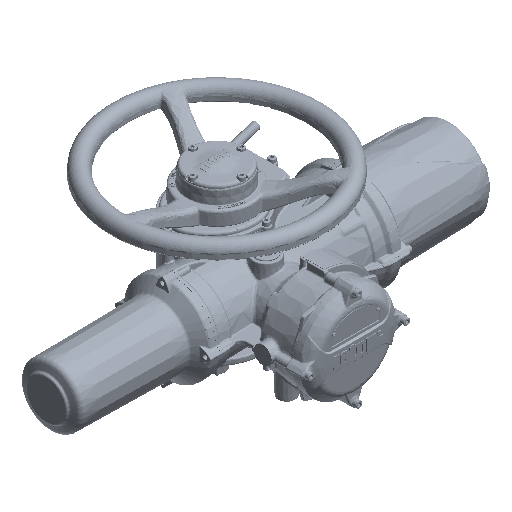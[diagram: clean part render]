
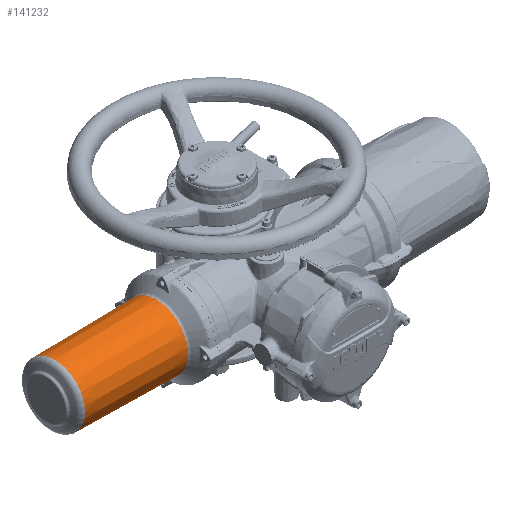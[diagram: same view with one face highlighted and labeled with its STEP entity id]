
A CAD part, isometric view. The second image highlights one B-rep face of the part: STEP entity #141232.
In plain terms, the highlighted conical face has half-angle 0.75 degrees and reference radius 65.5 mm.
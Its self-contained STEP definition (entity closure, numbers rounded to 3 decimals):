
#5220=CONICAL_SURFACE('',#149887,65.5,0.013);
#18158=B_SPLINE_CURVE_WITH_KNOTS('',3,(#257642,#257643,#257644,#257645,
#257646,#257647,#257648,#257649,#257650,#257651,#257652,#257653,#257654,
#257655,#257656,#257657,#257658,#257659,#257660,#257661,#257662,#257663,
#257664,#257665,#257666,#257667,#257668,#257669,#257670,#257671),
 .UNSPECIFIED.,.T.,.F.,(1,1,1,1,1,1,1,1,1,1,1,1,1,1,1,1,1,1,1,1,1,1,1,1,
1,1,1,1,1,1,1,1,1,1),(-0.016,-0.013,-0.006,
0.,0.003,0.006,0.01,0.013,
0.016,0.019,0.022,0.026,
0.029,0.032,0.035,0.038,
0.042,0.045,0.051,0.058,
0.064,0.067,0.07,0.074,
0.077,0.08,0.083,0.086,
0.09,0.096,0.102,0.106,
0.109,0.112),.UNSPECIFIED.);
#44130=ORIENTED_EDGE('',*,*,#61662,.T.);
#44131=ORIENTED_EDGE('',*,*,#61665,.T.);
#44132=ORIENTED_EDGE('',*,*,#61666,.F.);
#61662=EDGE_CURVE('',#71766,#71766,#77418,.F.);
#61665=EDGE_CURVE('',#71767,#71767,#18158,.T.);
#61666=EDGE_CURVE('',#71768,#71768,#77421,.T.);
#71766=VERTEX_POINT('',#257512);
#71767=VERTEX_POINT('',#257672);
#71768=VERTEX_POINT('',#257674);
#77418=CIRCLE('',#149884,65.464);
#77421=CIRCLE('',#149888,62.731);
#83673=EDGE_LOOP('',(#44130));
#83674=EDGE_LOOP('',(#44131));
#83675=EDGE_LOOP('',(#44132));
#90494=FACE_BOUND('',#83673,.T.);
#90495=FACE_BOUND('',#83674,.T.);
#90496=FACE_BOUND('',#83675,.T.);
#141232=ADVANCED_FACE('',(#90494,#90495,#90496),#5220,.T.);
#149884=AXIS2_PLACEMENT_3D('',#257511,#169366,#169367);
#149887=AXIS2_PLACEMENT_3D('',#257641,#169372,#169373);
#149888=AXIS2_PLACEMENT_3D('',#257673,#169374,#169375);
#169366=DIRECTION('',(1.,0.,0.));
#169367=DIRECTION('',(0.,0.,-1.));
#169372=DIRECTION('',(1.,0.,0.));
#169373=DIRECTION('',(0.,0.,-1.));
#169374=DIRECTION('',(-1.,0.,0.));
#169375=DIRECTION('',(0.,0.,1.));
#257511=CARTESIAN_POINT('',(-184.607,-60.,0.));
#257512=CARTESIAN_POINT('',(-184.607,-60.,-65.464));
#257641=CARTESIAN_POINT('',(-181.857,-60.,0.));
#257642=CARTESIAN_POINT('',(-261.185,-51.356,-63.957));
#257643=CARTESIAN_POINT('',(-265.153,-47.6,-63.222));
#257644=CARTESIAN_POINT('',(-268.938,-45.634,-62.74));
#257645=CARTESIAN_POINT('',(-272.024,-44.68,-62.47));
#257646=CARTESIAN_POINT('',(-275.207,-44.28,-62.326));
#257647=CARTESIAN_POINT('',(-278.455,-44.439,-62.323));
#257648=CARTESIAN_POINT('',(-281.574,-45.145,-62.455));
#257649=CARTESIAN_POINT('',(-284.565,-46.412,-62.706));
#257650=CARTESIAN_POINT('',(-287.218,-48.163,-63.03));
#257651=CARTESIAN_POINT('',(-289.536,-50.431,-63.388));
#257652=CARTESIAN_POINT('',(-291.318,-53.067,-63.712));
#257653=CARTESIAN_POINT('',(-292.536,-56.078,-63.957));
#257654=CARTESIAN_POINT('',(-293.057,-59.268,-64.067));
#257655=CARTESIAN_POINT('',(-292.86,-62.496,-64.025));
#257656=CARTESIAN_POINT('',(-291.946,-65.617,-63.836));
#257657=CARTESIAN_POINT('',(-289.876,-69.388,-63.44));
#257658=CARTESIAN_POINT('',(-285.928,-73.141,-62.81));
#257659=CARTESIAN_POINT('',(-279.883,-75.598,-62.296));
#257660=CARTESIAN_POINT('',(-274.446,-75.802,-62.317));
#257661=CARTESIAN_POINT('',(-270.242,-74.842,-62.61));
#257662=CARTESIAN_POINT('',(-267.3,-73.596,-62.936));
#257663=CARTESIAN_POINT('',(-264.607,-71.813,-63.335));
#257664=CARTESIAN_POINT('',(-262.339,-69.592,-63.745));
#257665=CARTESIAN_POINT('',(-260.523,-66.905,-64.121));
#257666=CARTESIAN_POINT('',(-259.331,-63.943,-64.39));
#257667=CARTESIAN_POINT('',(-258.799,-60.726,-64.516));
#257668=CARTESIAN_POINT('',(-259.068,-56.411,-64.452));
#257669=CARTESIAN_POINT('',(-261.185,-51.356,-63.957));
#257670=CARTESIAN_POINT('',(-265.153,-47.6,-63.222));
#257671=CARTESIAN_POINT('',(-268.938,-45.634,-62.74));
#257672=CARTESIAN_POINT('',(-266.15,-47.195,-63.111));
#257673=CARTESIAN_POINT('',(-393.347,-60.,0.));
#257674=CARTESIAN_POINT('',(-393.347,-60.,62.731));
